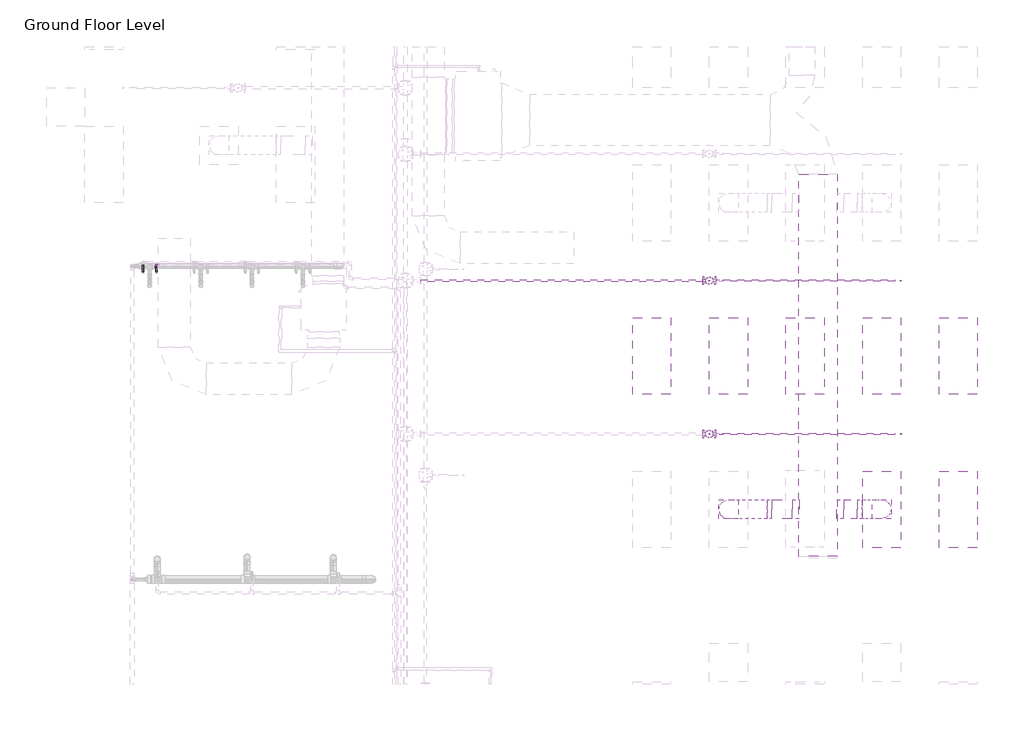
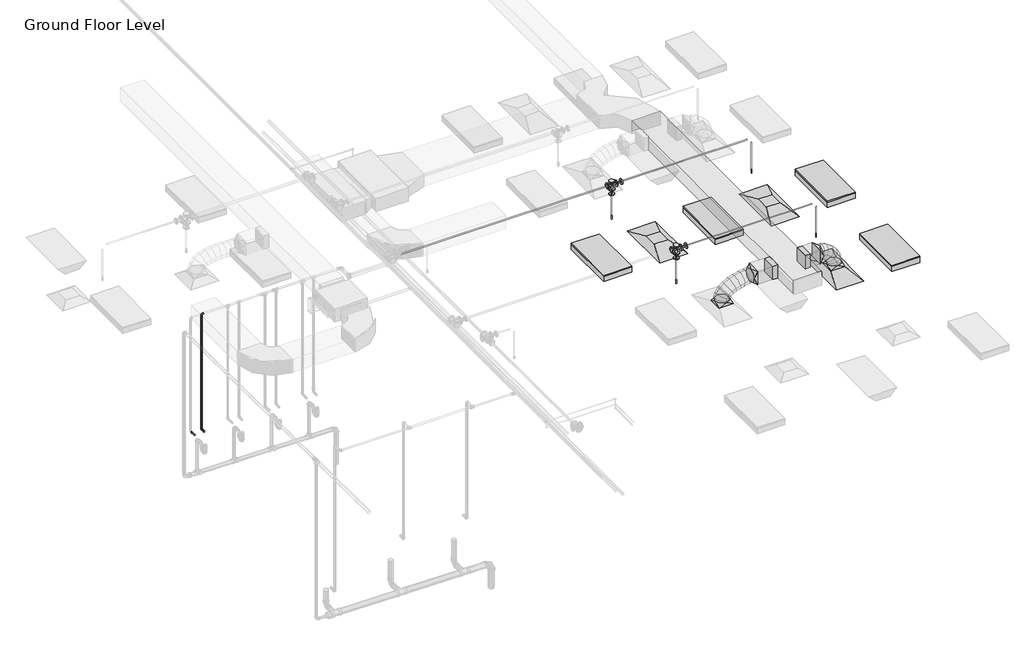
# One storey, part 22 of 66: 10 pipe segments, 8 pipe fittings, 6 duct fittings, 5 duct segments, 4 fire suppression terminals, 4 light fixtures, 3 air terminals.
"""IFC4 building model written with IfcOpenShell, lengths in millimetres."""

from ifc_helpers import new_model, si_unit, point, frame, frame_2d, origin, place, context, project, spatial, polyline, circle_curve, ellipse_curve, trimmed, segment, composite_curve, outline, extrude, transform, mapped, element, save
from ifc_brep_helpers import plane_surface, cylinder_surface, advanced_brep
from components import m_return_diffuser_1200x600_1200_x_600_face_300_x_300_d1983ef6, m_rectangular_takeoff_standard_cb0ccb98, m_rectangular_takeoff_standard_2be5eba1, m_rectangular_to_round_transition_angle_45_degree_641efff0, m_sprinkler_dry_pendent_hosted_15_mm_dry_pendent_9bda8e11, m_troffer_light_parabolic_rectangular1_0600x1200mm_4_lamp_86473d4a, m_reducer_flanged_cs_class_150_standard_ccf252ad, m_tee_round_base_flanged_cs_class_150_standard_7e5987a1, standard_b266ab3f

model = new_model("IFC4")

# Units and contexts
model_context = context("Model", 3, world=origin())
ifc_project = project(units=[si_unit("LENGTHUNIT", "METRE", prefix="MILLI")], contexts=[model_context])

# Site, building, storey
site = spatial("IfcSite", under=ifc_project)
building = spatial("IfcBuilding", under=site)
storey = spatial("IfcBuildingStorey", under=building, Name="Ground Floor Level", Elevation=900.0)

# Air terminals
placement = place(None, origin())
m_return_diffuser_1200x600_1200_x_600_face_300_x_300_shape = m_return_diffuser_1200x600_1200_x_600_face_300_x_300_d1983ef6(model_context)
element("IfcAirTerminal", 1, ObjectType="M_Return Diffuser 1200x600 : 1200 x 600 Face 300 x 300 Connection", at=placement, inside=storey, context=model_context, shape_type="MappedRepresentation", body=[
    mapped(m_return_diffuser_1200x600_1200_x_600_face_300_x_300_shape, transform((10743.0482736, -25264.7846466, 3650.0), x_axis=(0.0, 1.0, 0.0), y_axis=(-1.0, 0.0, 0.0), z_axis=(0.0, 0.0, 1.0))),
])
element("IfcAirTerminal", 2, ObjectType="M_Return Diffuser 1200x600 : 1200 x 600 Face 300 x 300 Connection", at=placement, inside=storey, context=model_context, shape_type="MappedRepresentation", body=[
    mapped(m_return_diffuser_1200x600_1200_x_600_face_300_x_300_shape, transform((13143.0482736, -25264.7846466, 3650.0), x_axis=(0.0, 1.0, 0.0), y_axis=(-1.0, 0.0, 0.0), z_axis=(0.0, 0.0, 1.0))),
])
element("IfcAirTerminal", 3, ObjectType="M_Supply Diffuser 1200x600 : 1200 x 600 Face 300 x 300 Connection", at=placement, inside=storey, context=model_context, shape_type="MappedRepresentation", body=[
    mapped(m_return_diffuser_1200x600_1200_x_600_face_300_x_300_shape, transform((13143.0482736, -27664.7846466, 3650.0), x_axis=(0.0, 1.0, 0.0), y_axis=(-1.0, 0.0, 0.0), z_axis=(0.0, 0.0, 1.0))),
])

# Duct fittings
m_rectangular_takeoff_standard_shape = m_rectangular_takeoff_standard_cb0ccb98(model_context)
element("IfcDuctFitting", 4, ObjectType="M_Rectangular Takeoff : Standard", at=placement, inside=storey, context=model_context, shape_type="MappedRepresentation", body=[
    mapped(m_rectangular_takeoff_standard_shape, transform((12447.7826463, -27664.7846466, 4150.0), x_axis=(1.0, 0.0, 0.0), y_axis=(0.0, -1.0, 0.0), z_axis=(0.0, 0.0, -1.0))),
])
m_rectangular_takeoff_standard_2_shape = m_rectangular_takeoff_standard_2be5eba1(model_context)
element("IfcDuctFitting", 5, ObjectType="M_Rectangular Takeoff : Standard", at=placement, inside=storey, context=model_context, shape_type="MappedRepresentation", body=[
    mapped(m_rectangular_takeoff_standard_2_shape, transform((11847.7826463, -27664.7846466, 4150.0), x_axis=(-1.0, 0.0, 0.0), y_axis=(0.0, 1.0, 0.0), z_axis=(0.0, 0.0, -1.0))),
])
m_rectangular_to_round_transition_angle_45_degree_shape = m_rectangular_to_round_transition_angle_45_degree_641efff0(model_context)
element("IfcDuctFitting", 6, ObjectType="M_Rectangular to Round Transition - Angle : 45 Degree", at=placement, inside=storey, context=model_context, shape_type="MappedRepresentation", body=[
    mapped(m_rectangular_to_round_transition_angle_45_degree_shape, transform((10743.0482736, -27664.7846466, 3751.6), x_axis=(0.0, 0.0, 1.0), y_axis=(-1.0, 0.0, 0.0), z_axis=(0.0, -1.0, 0.0))),
])
element("IfcDuctFitting", 7, ObjectType="M_Rectangular to Round Transition - Angle : 45 Degree", at=placement, inside=storey, context=model_context, shape_type="MappedRepresentation", body=[
    mapped(m_rectangular_to_round_transition_angle_45_degree_shape, transform((11424.4842049, -27664.7846466, 4150.0), x_axis=(-1.0, 0.0, 0.0), y_axis=(0.0, -1.0, 0.0), z_axis=(0.0, 0.0, 1.0))),
])
element("IfcDuctFitting", 8, ObjectType="M_Rectangular to Round Transition - Angle : 45 Degree", at=placement, inside=storey, context=model_context, shape_type="MappedRepresentation", body=[
    mapped(m_rectangular_to_round_transition_angle_45_degree_shape, transform((13143.0482736, -27664.7846466, 3751.6), x_axis=(0.0, 0.0, 1.0), y_axis=(-1.0, 0.0, 0.0), z_axis=(0.0, -1.0, 0.0))),
])
element("IfcDuctFitting", 9, ObjectType="M_Rectangular to Round Transition - Angle : 45 Degree", at=placement, inside=storey, context=model_context, shape_type="MappedRepresentation", body=[
    mapped(m_rectangular_to_round_transition_angle_45_degree_shape, transform((12761.6123697, -27664.7846466, 4150.0), x_axis=(1.0, 0.0, 0.0), y_axis=(0.0, 1.0, 0.0), z_axis=(0.0, 0.0, 1.0))),
])

# Duct segments
element("IfcDuctSegment", 10, ObjectType="Flex - Round", at=placement, inside=storey, context=model_context, shape_type="AdvancedBrep", body=[
    advanced_brep(
    [(10893.0482736, -27664.7846466, 3826.6), (10743.0482736, -27814.7846466, 3826.6), (10593.0482736, -27664.7846466, 3826.6), (10743.0482736, -27514.7846466, 3826.6), (10893.0482736, -27664.7846466, 3832.4838104), (10743.0482736, -27814.7846466, 3857.3049615), (10593.0482736, -27664.7846466, 3882.1261126), (10743.0482736, -27514.7846466, 3857.3049615), (10895.1777586, -27664.7846466, 3838.7421096), (10759.7096782, -27814.7846466, 3906.2708192), (10624.2415979, -27664.7846466, 3973.7995287), (10759.7096782, -27514.7846466, 3906.2708192), (10917.1997864, -27664.7846466, 3871.1472855), (10805.5876959, -27814.7846466, 3973.7798261), (10693.9756053, -27664.7846466, 4076.4123668), (10805.5876959, -27514.7846466, 3973.7798261), (10957.142511, -27664.7846466, 3903.4915826), (10874.5230324, -27814.7846466, 4029.6013814), (10791.9035539, -27664.7846466, 4155.7111802), (10874.5230324, -27514.7846466, 4029.6013814), (11020.0646936, -27664.7846466, 3936.1928758), (10960.3563938, -27814.7846466, 4074.2098454), (10900.6480941, -27664.7846466, 4212.226815), (10960.3563938, -27514.7846466, 4074.2098454), (11098.9170855, -27664.7846466, 3963.8479616), (11056.9284859, -27814.7846466, 4108.0795788), (11014.9398863, -27664.7846466, 4252.311196), (11056.9284859, -27514.7846466, 4108.0795788), (11185.4890682, -27664.7846466, 3984.0509494), (11158.0800145, -27814.7846466, 4131.684942), (11130.6709609, -27664.7846466, 4279.3189347), (11158.0800145, -27514.7846466, 4131.684942), (11271.9732516, -27664.7846466, 3996.0504424), (11257.6516856, -27814.7846466, 4145.5002956), (11243.3301196, -27664.7846466, 4294.9501488), (11257.6516856, -27514.7846466, 4145.5002956), (11346.1345531, -27664.7846466, 4000.0), (11342.1431577, -27814.7846466, 4150.0), (11338.1517622, -27664.7846466, 4300.0), (11342.1431577, -27514.7846466, 4150.0), (11349.4842049, -27664.7846466, 4000.0), (11349.4842049, -27514.7846466, 4150.0), (11349.4842049, -27664.7846466, 4300.0), (11349.4842049, -27814.7846466, 4150.0)],
    [
        (0, 1, circle_curve(frame((10743.0482736, -27664.7846466, 3826.6), z_axis=(0.0, 0.0, -1.0), x_axis=(1.0, 0.0, 0.0)), 150.0)),
        (1, 2, circle_curve(frame((10743.0482736, -27664.7846466, 3826.6), z_axis=(0.0, 0.0, -1.0), x_axis=(1.0, 0.0, 0.0)), 150.0)),
        (2, 3, circle_curve(frame((10743.0482736, -27664.7846466, 3826.6), z_axis=(0.0, 0.0, -1.0), x_axis=(1.0, 0.0, 0.0)), 150.0)),
        (3, 0, circle_curve(frame((10743.0482736, -27664.7846466, 3826.6), z_axis=(0.0, 0.0, -1.0), x_axis=(1.0, 0.0, 0.0)), 150.0)),
        (0, 4),
        (4, 5, ellipse_curve(frame((10743.0482736, -27664.7846466, 3857.3049615), z_axis=(-0.1632543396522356, 0.0, -0.9865840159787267), x_axis=(0.9865840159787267, 0.0, -0.16325433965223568)), 152.039763, 150.0)),
        (5, 1),
        (5, 6, ellipse_curve(frame((10743.0482736, -27664.7846466, 3857.3049615), z_axis=(-0.1632543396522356, 0.0, -0.9865840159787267), x_axis=(0.9865840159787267, 0.0, -0.16325433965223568)), 152.039763, 150.0)),
        (6, 2),
        (6, 7, ellipse_curve(frame((10743.0482736, -27664.7846466, 3857.3049615), z_axis=(-0.1632543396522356, 0.0, -0.9865840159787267), x_axis=(0.9865840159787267, 0.0, -0.16325433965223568)), 152.039763, 150.0)),
        (7, 3),
        (7, 4, ellipse_curve(frame((10743.0482736, -27664.7846466, 3857.3049615), z_axis=(-0.1632543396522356, 0.0, -0.9865840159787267), x_axis=(0.9865840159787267, 0.0, -0.16325433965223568)), 152.039763, 150.0)),
        (4, 8),
        (8, 9, ellipse_curve(frame((10759.7096782, -27664.7846466, 3906.2708192), z_axis=(-0.4461280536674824, 0.0, -0.8949691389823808), x_axis=(0.8949691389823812, 0.0, -0.44612805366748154)), 151.366203, 150.0)),
        (9, 5),
        (9, 10, ellipse_curve(frame((10759.7096782, -27664.7846466, 3906.2708192), z_axis=(-0.4461280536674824, 0.0, -0.8949691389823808), x_axis=(0.8949691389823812, 0.0, -0.44612805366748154)), 151.366203, 150.0)),
        (10, 6),
        (10, 11, ellipse_curve(frame((10759.7096782, -27664.7846466, 3906.2708192), z_axis=(-0.4461280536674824, 0.0, -0.8949691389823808), x_axis=(0.8949691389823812, 0.0, -0.44612805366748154)), 151.366203, 150.0)),
        (11, 7),
        (11, 8, ellipse_curve(frame((10759.7096782, -27664.7846466, 3906.2708192), z_axis=(-0.4461280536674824, 0.0, -0.8949691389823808), x_axis=(0.8949691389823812, 0.0, -0.44612805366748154)), 151.366203, 150.0)),
        (8, 12),
        (12, 13, ellipse_curve(frame((10805.5876959, -27664.7846466, 3973.7798261), z_axis=(-0.6768758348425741, 0.0, -0.7360972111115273), x_axis=(0.7360972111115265, 0.0, -0.6768758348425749)), 151.6268352, 150.0)),
        (13, 9),
        (13, 14, ellipse_curve(frame((10805.5876959, -27664.7846466, 3973.7798261), z_axis=(-0.6768758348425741, 0.0, -0.7360972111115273), x_axis=(0.7360972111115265, 0.0, -0.6768758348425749)), 151.6268352, 150.0)),
        (14, 10),
        (14, 15, ellipse_curve(frame((10805.5876959, -27664.7846466, 3973.7798261), z_axis=(-0.6768758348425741, 0.0, -0.7360972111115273), x_axis=(0.7360972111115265, 0.0, -0.6768758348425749)), 151.6268352, 150.0)),
        (15, 11),
        (15, 12, ellipse_curve(frame((10805.5876959, -27664.7846466, 3973.7798261), z_axis=(-0.6768758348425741, 0.0, -0.7360972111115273), x_axis=(0.7360972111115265, 0.0, -0.6768758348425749)), 151.6268352, 150.0)),
        (12, 16),
        (16, 17, ellipse_curve(frame((10874.5230324, -27664.7846466, 4029.6013814), z_axis=(-0.8364738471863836, 0.0, -0.5480068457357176), x_axis=(0.5480068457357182, 0.0, -0.8364738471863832)), 150.7635884, 150.0)),
        (17, 13),
        (17, 18, ellipse_curve(frame((10874.5230324, -27664.7846466, 4029.6013814), z_axis=(-0.8364738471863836, 0.0, -0.5480068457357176), x_axis=(0.5480068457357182, 0.0, -0.8364738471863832)), 150.7635884, 150.0)),
        (18, 14),
        (18, 19, ellipse_curve(frame((10874.5230324, -27664.7846466, 4029.6013814), z_axis=(-0.8364738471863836, 0.0, -0.5480068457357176), x_axis=(0.5480068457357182, 0.0, -0.8364738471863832)), 150.7635884, 150.0)),
        (19, 15),
        (19, 16, ellipse_curve(frame((10874.5230324, -27664.7846466, 4029.6013814), z_axis=(-0.8364738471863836, 0.0, -0.5480068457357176), x_axis=(0.5480068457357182, 0.0, -0.8364738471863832)), 150.7635884, 150.0)),
        (16, 20),
        (20, 21, ellipse_curve(frame((10960.3563938, -27664.7846466, 4074.2098454), z_axis=(-0.9177957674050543, 0.0, -0.3970528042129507), x_axis=(0.3970528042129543, 0.0, -0.9177957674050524)), 150.3787384, 150.0)),
        (21, 17),
        (21, 22, ellipse_curve(frame((10960.3563938, -27664.7846466, 4074.2098454), z_axis=(-0.9177957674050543, 0.0, -0.3970528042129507), x_axis=(0.3970528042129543, 0.0, -0.9177957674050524)), 150.3787384, 150.0)),
        (22, 18),
        (22, 23, ellipse_curve(frame((10960.3563938, -27664.7846466, 4074.2098454), z_axis=(-0.9177957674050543, 0.0, -0.3970528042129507), x_axis=(0.3970528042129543, 0.0, -0.9177957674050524)), 150.3787384, 150.0)),
        (23, 19),
        (23, 20, ellipse_curve(frame((10960.3563938, -27664.7846466, 4074.2098454), z_axis=(-0.9177957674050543, 0.0, -0.3970528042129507), x_axis=(0.3970528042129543, 0.0, -0.9177957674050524)), 150.3787384, 150.0)),
        (20, 24),
        (24, 25, ellipse_curve(frame((11056.9284859, -27664.7846466, 4108.0795788), z_axis=(-0.9601411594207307, 0.0, -0.27951557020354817), x_axis=(0.2795155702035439, 0.0, -0.9601411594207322)), 150.2191795, 150.0)),
        (25, 21),
        (25, 26, ellipse_curve(frame((11056.9284859, -27664.7846466, 4108.0795788), z_axis=(-0.9601411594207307, 0.0, -0.27951557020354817), x_axis=(0.2795155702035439, 0.0, -0.9601411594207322)), 150.2191795, 150.0)),
        (26, 22),
        (26, 27, ellipse_curve(frame((11056.9284859, -27664.7846466, 4108.0795788), z_axis=(-0.9601411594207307, 0.0, -0.27951557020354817), x_axis=(0.2795155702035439, 0.0, -0.9601411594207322)), 150.2191795, 150.0)),
        (27, 23),
        (27, 24, ellipse_curve(frame((11056.9284859, -27664.7846466, 4108.0795788), z_axis=(-0.9601411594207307, 0.0, -0.27951557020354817), x_axis=(0.2795155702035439, 0.0, -0.9601411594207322)), 150.2191795, 150.0)),
        (24, 28),
        (28, 29, ellipse_curve(frame((11158.0800145, -27664.7846466, 4131.684942), z_axis=(-0.9831991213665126, 0.0, -0.1825362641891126), x_axis=(0.18253626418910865, 0.0, -0.9831991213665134)), 150.1567581, 150.0)),
        (29, 25),
        (29, 30, ellipse_curve(frame((11158.0800145, -27664.7846466, 4131.684942), z_axis=(-0.9831991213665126, 0.0, -0.1825362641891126), x_axis=(0.18253626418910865, 0.0, -0.9831991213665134)), 150.1567581, 150.0)),
        (30, 26),
        (30, 31, ellipse_curve(frame((11158.0800145, -27664.7846466, 4131.684942), z_axis=(-0.9831991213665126, 0.0, -0.1825362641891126), x_axis=(0.18253626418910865, 0.0, -0.9831991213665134)), 150.1567581, 150.0)),
        (31, 27),
        (31, 28, ellipse_curve(frame((11158.0800145, -27664.7846466, 4131.684942), z_axis=(-0.9831991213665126, 0.0, -0.1825362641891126), x_axis=(0.18253626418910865, 0.0, -0.9831991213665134)), 150.1567581, 150.0)),
        (28, 32),
        (32, 33, ellipse_curve(frame((11257.6516856, -27664.7846466, 4145.5002956), z_axis=(-0.9954398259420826, 0.0, -0.09539157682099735), x_axis=(0.09539157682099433, 0.0, -0.9954398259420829)), 150.1344926, 150.0)),
        (33, 29),
        (33, 34, ellipse_curve(frame((11257.6516856, -27664.7846466, 4145.5002956), z_axis=(-0.9954398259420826, 0.0, -0.09539157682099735), x_axis=(0.09539157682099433, 0.0, -0.9954398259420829)), 150.1344926, 150.0)),
        (34, 30),
        (34, 35, ellipse_curve(frame((11257.6516856, -27664.7846466, 4145.5002956), z_axis=(-0.9954398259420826, 0.0, -0.09539157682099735), x_axis=(0.09539157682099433, 0.0, -0.9954398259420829)), 150.1344926, 150.0)),
        (35, 31),
        (35, 32, ellipse_curve(frame((11257.6516856, -27664.7846466, 4145.5002956), z_axis=(-0.9954398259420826, 0.0, -0.09539157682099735), x_axis=(0.09539157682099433, 0.0, -0.9954398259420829)), 150.1344926, 150.0)),
        (32, 36),
        (36, 37, ellipse_curve(frame((11342.1431577, -27664.7846466, 4150.0), z_axis=(-0.9996461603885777, 0.0, -0.02659988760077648), x_axis=(0.026599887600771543, 0.0, -0.9996461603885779)), 150.0530947, 150.0)),
        (37, 33),
        (37, 38, ellipse_curve(frame((11342.1431577, -27664.7846466, 4150.0), z_axis=(-0.9996461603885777, 0.0, -0.02659988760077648), x_axis=(0.026599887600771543, 0.0, -0.9996461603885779)), 150.0530947, 150.0)),
        (38, 34),
        (38, 39, ellipse_curve(frame((11342.1431577, -27664.7846466, 4150.0), z_axis=(-0.9996461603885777, 0.0, -0.02659988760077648), x_axis=(0.026599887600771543, 0.0, -0.9996461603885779)), 150.0530947, 150.0)),
        (39, 35),
        (39, 36, ellipse_curve(frame((11342.1431577, -27664.7846466, 4150.0), z_axis=(-0.9996461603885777, 0.0, -0.02659988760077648), x_axis=(0.026599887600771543, 0.0, -0.9996461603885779)), 150.0530947, 150.0)),
        (40, 41, circle_curve(frame((11349.4842049, -27664.7846466, 4150.0), z_axis=(1.0, 0.0, 0.0), x_axis=(0.0, 0.0, -1.0)), 150.0)),
        (41, 42, circle_curve(frame((11349.4842049, -27664.7846466, 4150.0), z_axis=(1.0, 0.0, 0.0), x_axis=(0.0, 0.0, -1.0)), 150.0)),
        (42, 43, circle_curve(frame((11349.4842049, -27664.7846466, 4150.0), z_axis=(1.0, 0.0, 0.0), x_axis=(0.0, 0.0, -1.0)), 150.0)),
        (43, 40, circle_curve(frame((11349.4842049, -27664.7846466, 4150.0), z_axis=(1.0, 0.0, 0.0), x_axis=(0.0, 0.0, -1.0)), 150.0)),
        (36, 40),
        (43, 37),
        (42, 38),
        (41, 39),
    ],
    [
        plane_surface(frame((10743.0482736, -27814.7846466, 3826.6), z_axis=(0.0, 0.0, -1.0), x_axis=(1.0, 0.0, 0.0))),
        cylinder_surface(frame((10743.0482736, -27664.7846466, 3826.6), z_axis=(0.0, 0.0, -1.0), x_axis=(1.0, 0.0, 0.0)), 150.0),
        cylinder_surface(frame((10743.0482736, -27664.7846466, 3857.3049615), z_axis=(-0.32212824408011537, 0.0, -0.946696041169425), x_axis=(0.946696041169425, 0.0, -0.32212824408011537)), 150.0),
        cylinder_surface(frame((10759.7096782, -27664.7846466, 3906.2708192), z_axis=(-0.5620745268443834, 0.0, -0.827086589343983), x_axis=(0.827086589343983, 0.0, -0.5620745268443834)), 150.0),
        cylinder_surface(frame((10805.5876959, -27664.7846466, 3973.7798261), z_axis=(-0.7771524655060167, 0.0, -0.6293123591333), x_axis=(0.6293123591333, 0.0, -0.7771524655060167)), 150.0),
        cylinder_surface(frame((10874.5230324, -27664.7846466, 4029.6013814), z_axis=(-0.8873220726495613, 0.0, -0.4611502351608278), x_axis=(0.4611502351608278, 0.0, -0.8873220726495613)), 150.0),
        cylinder_surface(frame((10960.3563938, -27664.7846466, 4074.2098454), z_axis=(-0.9436464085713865, 0.0, -0.33095536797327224), x_axis=(0.33095536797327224, 0.0, -0.9436464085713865)), 150.0),
        cylinder_surface(frame((11056.9284859, -27664.7846466, 4108.0795788), z_axis=(-0.9738340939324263, 0.0, -0.22726010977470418), x_axis=(0.22726010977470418, 0.0, -0.9738340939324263)), 150.0),
        cylinder_surface(frame((11158.0800145, -27664.7846466, 4131.684942), z_axis=(-0.9905113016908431, 0.0, -0.13743129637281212), x_axis=(0.13743129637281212, 0.0, -0.9905113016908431)), 150.0),
        cylinder_surface(frame((11257.6516856, -27664.7846466, 4145.5002956), z_axis=(-0.9985848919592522, 0.0, -0.05318095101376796), x_axis=(0.05318095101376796, 0.0, -0.9985848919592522)), 150.0),
        plane_surface(frame((11349.4842049, -27664.7846466, 4000.0), z_axis=(1.0, 0.0, 0.0), x_axis=(0.0, 1.0, 0.0))),
        cylinder_surface(frame((11342.1431577, -27664.7846466, 4150.0), z_axis=(-1.0, 0.0, 0.0), x_axis=(0.0, 0.0, -1.0)), 150.0),
    ],
    [
        (0, [[1, 2, 3, 4]]),
        (1, [[-1, 5, 6, 7]]),
        (1, [[-2, -7, 8, 9]]),
        (1, [[-3, -9, 10, 11]]),
        (1, [[-4, -11, 12, -5]]),
        (2, [[-6, 13, 14, 15]]),
        (2, [[-8, -15, 16, 17]]),
        (2, [[-10, -17, 18, 19]]),
        (2, [[-12, -19, 20, -13]]),
        (3, [[-14, 21, 22, 23]]),
        (3, [[-16, -23, 24, 25]]),
        (3, [[-18, -25, 26, 27]]),
        (3, [[-20, -27, 28, -21]]),
        (4, [[-22, 29, 30, 31]]),
        (4, [[-24, -31, 32, 33]]),
        (4, [[-26, -33, 34, 35]]),
        (4, [[-28, -35, 36, -29]]),
        (5, [[-30, 37, 38, 39]]),
        (5, [[-32, -39, 40, 41]]),
        (5, [[-34, -41, 42, 43]]),
        (5, [[-36, -43, 44, -37]]),
        (6, [[-38, 45, 46, 47]]),
        (6, [[-40, -47, 48, 49]]),
        (6, [[-42, -49, 50, 51]]),
        (6, [[-44, -51, 52, -45]]),
        (7, [[-46, 53, 54, 55]]),
        (7, [[-48, -55, 56, 57]]),
        (7, [[-50, -57, 58, 59]]),
        (7, [[-52, -59, 60, -53]]),
        (8, [[-54, 61, 62, 63]]),
        (8, [[-56, -63, 64, 65]]),
        (8, [[-58, -65, 66, 67]]),
        (8, [[-60, -67, 68, -61]]),
        (9, [[-62, 69, 70, 71]]),
        (9, [[-64, -71, 72, 73]]),
        (9, [[-66, -73, 74, 75]]),
        (9, [[-68, -75, 76, -69]]),
        (10, [[77, 78, 79, 80]]),
        (11, [[-70, 81, -80, 82]]),
        (11, [[-72, -82, -79, 83]]),
        (11, [[-74, -83, -78, 84]]),
        (11, [[-76, -84, -77, -81]]),
    ],
),
])
element("IfcDuctSegment", 11, ObjectType="Flex - Round", at=placement, inside=storey, context=model_context, shape_type="AdvancedBrep", body=[
    advanced_brep(
    [(13293.0482736, -27664.7846466, 3826.6), (13143.0482736, -27814.7846466, 3826.6), (12993.0482736, -27664.7846466, 3826.6), (13143.0482736, -27514.7846466, 3826.6), (13293.0482736, -27664.7846466, 3876.0801767), (13143.0482736, -27814.7846466, 3855.2056793), (12993.0482736, -27664.7846466, 3834.331182), (13143.0482736, -27514.7846466, 3855.2056793), (13265.1827192, -27664.7846466, 3974.2594203), (13125.4356677, -27814.7846466, 3917.2605124), (12985.6886162, -27664.7846466, 3860.2616044), (13125.4356677, -27514.7846466, 3917.2605124), (13200.6413272, -27664.7846466, 4092.9659573), (13077.9530197, -27814.7846466, 4004.5920764), (12955.2647122, -27664.7846466, 3916.2181955), (13077.9530197, -27514.7846466, 4004.5920764), (13104.756489, -27664.7846466, 4195.7964668), (13008.6330843, -27814.7846466, 4078.9333843), (12912.5096796, -27664.7846466, 3962.0703018), (13008.6330843, -27514.7846466, 4078.9333843), (12990.1100986, -27664.7846466, 4267.0876603), (12925.5086161, -27814.7846466, 4130.6231281), (12860.9071335, -27664.7846466, 3994.1585959), (12925.5086161, -27514.7846466, 4130.6231281), (12893.3774283, -27664.7846466, 4300.0), (12868.5580444, -27814.7846466, 4150.0), (12843.7386605, -27664.7846466, 4000.0), (12868.5580444, -27514.7846466, 4150.0), (12836.6123697, -27664.7846466, 4300.0), (12836.6123697, -27814.7846466, 4150.0), (12836.6123697, -27664.7846466, 4000.0), (12836.6123697, -27514.7846466, 4150.0)],
    [
        (0, 1, circle_curve(frame((13143.0482736, -27664.7846466, 3826.6), z_axis=(0.0, 0.0, -1.0), x_axis=(1.0, 0.0, 0.0)), 150.0)),
        (1, 2, circle_curve(frame((13143.0482736, -27664.7846466, 3826.6), z_axis=(0.0, 0.0, -1.0), x_axis=(1.0, 0.0, 0.0)), 150.0)),
        (2, 3, circle_curve(frame((13143.0482736, -27664.7846466, 3826.6), z_axis=(0.0, 0.0, -1.0), x_axis=(1.0, 0.0, 0.0)), 150.0)),
        (3, 0, circle_curve(frame((13143.0482736, -27664.7846466, 3826.6), z_axis=(0.0, 0.0, -1.0), x_axis=(1.0, 0.0, 0.0)), 150.0)),
        (0, 4),
        (4, 5, ellipse_curve(frame((13143.0482736, -27664.7846466, 3855.2056793), z_axis=(0.13783502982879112, 0.0, -0.990455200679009), x_axis=(-0.990455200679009, 0.0, -0.1378350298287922)), 151.4455171, 150.0)),
        (5, 1),
        (5, 6, ellipse_curve(frame((13143.0482736, -27664.7846466, 3855.2056793), z_axis=(0.13783502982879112, 0.0, -0.990455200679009), x_axis=(-0.990455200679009, 0.0, -0.1378350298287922)), 151.4455171, 150.0)),
        (6, 2),
        (6, 7, ellipse_curve(frame((13143.0482736, -27664.7846466, 3855.2056793), z_axis=(0.13783502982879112, 0.0, -0.990455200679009), x_axis=(-0.990455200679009, 0.0, -0.1378350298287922)), 151.4455171, 150.0)),
        (7, 3),
        (7, 4, ellipse_curve(frame((13143.0482736, -27664.7846466, 3855.2056793), z_axis=(0.13783502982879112, 0.0, -0.990455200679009), x_axis=(-0.990455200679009, 0.0, -0.1378350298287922)), 151.4455171, 150.0)),
        (4, 8),
        (8, 9, ellipse_curve(frame((13125.4356677, -27664.7846466, 3917.2605124), z_axis=(0.37766579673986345, 0.0, -0.9259419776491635), x_axis=(-0.9259419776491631, 0.0, -0.3776657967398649)), 150.9241992, 150.0)),
        (9, 5),
        (9, 10, ellipse_curve(frame((13125.4356677, -27664.7846466, 3917.2605124), z_axis=(0.37766579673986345, 0.0, -0.9259419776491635), x_axis=(-0.9259419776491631, 0.0, -0.3776657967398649)), 150.9241992, 150.0)),
        (10, 6),
        (10, 11, ellipse_curve(frame((13125.4356677, -27664.7846466, 3917.2605124), z_axis=(0.37766579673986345, 0.0, -0.9259419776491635), x_axis=(-0.9259419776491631, 0.0, -0.3776657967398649)), 150.9241992, 150.0)),
        (11, 7),
        (11, 8, ellipse_curve(frame((13125.4356677, -27664.7846466, 3917.2605124), z_axis=(0.37766579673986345, 0.0, -0.9259419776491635), x_axis=(-0.9259419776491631, 0.0, -0.3776657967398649)), 150.9241992, 150.0)),
        (8, 12),
        (12, 13, ellipse_curve(frame((13077.9530197, -27664.7846466, 4004.5920764), z_axis=(0.584471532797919, 0.0, -0.8114142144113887), x_axis=(-0.8114142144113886, 0.0, -0.5844715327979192)), 151.2030542, 150.0)),
        (13, 9),
        (13, 14, ellipse_curve(frame((13077.9530197, -27664.7846466, 4004.5920764), z_axis=(0.584471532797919, 0.0, -0.8114142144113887), x_axis=(-0.8114142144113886, 0.0, -0.5844715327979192)), 151.2030542, 150.0)),
        (14, 10),
        (14, 15, ellipse_curve(frame((13077.9530197, -27664.7846466, 4004.5920764), z_axis=(0.584471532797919, 0.0, -0.8114142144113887), x_axis=(-0.8114142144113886, 0.0, -0.5844715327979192)), 151.2030542, 150.0)),
        (15, 11),
        (15, 12, ellipse_curve(frame((13077.9530197, -27664.7846466, 4004.5920764), z_axis=(0.584471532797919, 0.0, -0.8114142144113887), x_axis=(-0.8114142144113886, 0.0, -0.5844715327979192)), 151.2030542, 150.0)),
        (12, 16),
        (16, 17, ellipse_curve(frame((13008.6330843, -27664.7846466, 4078.9333843), z_axis=(0.7723088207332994, 0.0, -0.6352472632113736), x_axis=(-0.6352472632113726, 0.0, -0.7723088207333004)), 151.3165192, 150.0)),
        (17, 13),
        (17, 18, ellipse_curve(frame((13008.6330843, -27664.7846466, 4078.9333843), z_axis=(0.7723088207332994, 0.0, -0.6352472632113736), x_axis=(-0.6352472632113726, 0.0, -0.7723088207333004)), 151.3165192, 150.0)),
        (18, 14),
        (18, 19, ellipse_curve(frame((13008.6330843, -27664.7846466, 4078.9333843), z_axis=(0.7723088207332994, 0.0, -0.6352472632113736), x_axis=(-0.6352472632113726, 0.0, -0.7723088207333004)), 151.3165192, 150.0)),
        (19, 15),
        (19, 16, ellipse_curve(frame((13008.6330843, -27664.7846466, 4078.9333843), z_axis=(0.7723088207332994, 0.0, -0.6352472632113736), x_axis=(-0.6352472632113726, 0.0, -0.7723088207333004)), 151.3165192, 150.0)),
        (16, 20),
        (20, 21, ellipse_curve(frame((12925.5086161, -27664.7846466, 4130.6231281), z_axis=(0.9038393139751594, 0.0, -0.4278720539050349), x_axis=(-0.42787205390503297, 0.0, -0.9038393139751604)), 150.9831782, 150.0)),
        (21, 17),
        (21, 22, ellipse_curve(frame((12925.5086161, -27664.7846466, 4130.6231281), z_axis=(0.9038393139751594, 0.0, -0.4278720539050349), x_axis=(-0.42787205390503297, 0.0, -0.9038393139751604)), 150.9831782, 150.0)),
        (22, 18),
        (22, 23, ellipse_curve(frame((12925.5086161, -27664.7846466, 4130.6231281), z_axis=(0.9038393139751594, 0.0, -0.4278720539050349), x_axis=(-0.42787205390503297, 0.0, -0.9038393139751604)), 150.9831782, 150.0)),
        (23, 19),
        (23, 20, ellipse_curve(frame((12925.5086161, -27664.7846466, 4130.6231281), z_axis=(0.9038393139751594, 0.0, -0.4278720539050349), x_axis=(-0.42787205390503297, 0.0, -0.9038393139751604)), 150.9831782, 150.0)),
        (20, 24),
        (24, 25, ellipse_curve(frame((12868.5580444, -27664.7846466, 4150.0), z_axis=(0.9865858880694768, 0.0, -0.1632430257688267), x_axis=(-0.16324302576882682, 0.0, -0.9865858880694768)), 152.0394745, 150.0)),
        (25, 21),
        (25, 26, ellipse_curve(frame((12868.5580444, -27664.7846466, 4150.0), z_axis=(0.9865858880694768, 0.0, -0.1632430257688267), x_axis=(-0.16324302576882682, 0.0, -0.9865858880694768)), 152.0394745, 150.0)),
        (26, 22),
        (26, 27, ellipse_curve(frame((12868.5580444, -27664.7846466, 4150.0), z_axis=(0.9865858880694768, 0.0, -0.1632430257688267), x_axis=(-0.16324302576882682, 0.0, -0.9865858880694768)), 152.0394745, 150.0)),
        (27, 23),
        (27, 24, ellipse_curve(frame((12868.5580444, -27664.7846466, 4150.0), z_axis=(0.9865858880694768, 0.0, -0.1632430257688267), x_axis=(-0.16324302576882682, 0.0, -0.9865858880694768)), 152.0394745, 150.0)),
        (24, 28),
        (28, 29, circle_curve(frame((12836.6123697, -27664.7846466, 4150.0), z_axis=(1.0, 0.0, 0.0), x_axis=(0.0, 0.0, 1.0)), 150.0)),
        (29, 25),
        (29, 30, circle_curve(frame((12836.6123697, -27664.7846466, 4150.0), z_axis=(1.0, 0.0, 0.0), x_axis=(0.0, 0.0, 1.0)), 150.0)),
        (30, 26),
        (30, 31, circle_curve(frame((12836.6123697, -27664.7846466, 4150.0), z_axis=(1.0, 0.0, 0.0), x_axis=(0.0, 0.0, 1.0)), 150.0)),
        (31, 27),
        (31, 28, circle_curve(frame((12836.6123697, -27664.7846466, 4150.0), z_axis=(1.0, 0.0, 0.0), x_axis=(0.0, 0.0, 1.0)), 150.0)),
    ],
    [
        plane_surface(frame((13143.0482736, -27814.7846466, 3826.6), z_axis=(0.0, 0.0, -1.0), x_axis=(1.0, 0.0, 0.0))),
        cylinder_surface(frame((13143.0482736, -27664.7846466, 3826.6), z_axis=(0.0, 0.0, -1.0), x_axis=(1.0, 0.0, 0.0)), 150.0),
        cylinder_surface(frame((13143.0482736, -27664.7846466, 3855.2056793), z_axis=(0.27303884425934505, 0.0, -0.9620030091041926), x_axis=(0.9620030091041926, 0.0, 0.27303884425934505)), 150.0),
        cylinder_surface(frame((13125.4356677, -27664.7846466, 3917.2605124), z_axis=(0.4776674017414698, 0.0, -0.8785407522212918), x_axis=(0.8785407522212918, 0.0, 0.4776674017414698)), 150.0),
        cylinder_surface(frame((13077.9530197, -27664.7846466, 4004.5920764), z_axis=(0.6819749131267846, 0.0, -0.7313755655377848), x_axis=(0.7313755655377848, 0.0, 0.6819749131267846)), 150.0),
        cylinder_surface(frame((13008.6330843, -27664.7846466, 4078.9333843), z_axis=(0.8492038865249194, 0.0, -0.5280651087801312), x_axis=(0.5280651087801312, 0.0, 0.8492038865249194)), 150.0),
        cylinder_surface(frame((12925.5086161, -27664.7846466, 4130.6231281), z_axis=(0.9467034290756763, 0.0, -0.32210653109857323), x_axis=(0.32210653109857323, 0.0, 0.9467034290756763)), 150.0),
        cylinder_surface(frame((12868.5580444, -27664.7846466, 4150.0), z_axis=(1.0, 0.0, 0.0), x_axis=(0.0, 0.0, 1.0)), 150.0),
        plane_surface(frame((12836.6123697, -27664.7846466, 4000.0), z_axis=(-1.0, 0.0, 0.0), x_axis=(0.0, -1.0, 0.0))),
    ],
    [
        (0, [[1, 2, 3, 4]]),
        (1, [[-1, 5, 6, 7]]),
        (1, [[-2, -7, 8, 9]]),
        (1, [[-3, -9, 10, 11]]),
        (1, [[-4, -11, 12, -5]]),
        (2, [[-6, 13, 14, 15]]),
        (2, [[-8, -15, 16, 17]]),
        (2, [[-10, -17, 18, 19]]),
        (2, [[-12, -19, 20, -13]]),
        (3, [[-14, 21, 22, 23]]),
        (3, [[-16, -23, 24, 25]]),
        (3, [[-18, -25, 26, 27]]),
        (3, [[-20, -27, 28, -21]]),
        (4, [[-22, 29, 30, 31]]),
        (4, [[-24, -31, 32, 33]]),
        (4, [[-26, -33, 34, 35]]),
        (4, [[-28, -35, 36, -29]]),
        (5, [[-30, 37, 38, 39]]),
        (5, [[-32, -39, 40, 41]]),
        (5, [[-34, -41, 42, 43]]),
        (5, [[-36, -43, 44, -37]]),
        (6, [[-38, 45, 46, 47]]),
        (6, [[-40, -47, 48, 49]]),
        (6, [[-42, -49, 50, 51]]),
        (6, [[-44, -51, 52, -45]]),
        (7, [[-46, 53, 54, 55]]),
        (7, [[-48, -55, 56, 57]]),
        (7, [[-50, -57, 58, 59]]),
        (7, [[-52, -59, 60, -53]]),
        (8, [[-60, -58, -56, -54]]),
    ],
),
])
element("IfcDuctSegment", 12, ObjectType="Radius Elbows / Taps", at=placement, inside=storey, context=model_context, shape_type="SweptSolid", body=[
    extrude(outline(polyline([(12447.7826463, -28403.2846466), (11847.7826463, -28403.2846466), (11847.7826463, -22416.5689179), (12447.7826463, -22416.5689179), (12447.7826463, -28403.2846466)])), frame((0.0, 0.0, 4000.0002153), z_axis=(0.0, 0.0, 1.0), x_axis=(1.0, 0.0, 0.0)), (0.0, 0.0, 1.0), 300.0),
])
element("IfcDuctSegment", 13, ObjectType="Radius Elbows / Taps", at=placement, inside=storey, context=model_context, shape_type="SweptSolid", body=[
    extrude(outline(polyline([(11746.1826463, -27514.7846466), (11746.1826463, -27814.7846466), (11424.4842049, -27814.7846466), (11424.4842049, -27514.7846466), (11746.1826463, -27514.7846466)])), frame((0.0, 0.0, 4000.0), z_axis=(0.0, 0.0, 1.0), x_axis=(1.0, 0.0, 0.0)), (0.0, 0.0, 1.0), 300.0),
])
element("IfcDuctSegment", 14, ObjectType="Radius Elbows / Taps", at=placement, inside=storey, context=model_context, shape_type="SweptSolid", body=[
    extrude(outline(polyline([(12549.3826463, -27814.7846466), (12549.3826463, -27514.7846466), (12761.6123697, -27514.7846466), (12761.6123697, -27814.7846466), (12549.3826463, -27814.7846466)])), frame((0.0, 0.0, 4000.0), z_axis=(0.0, 0.0, 1.0), x_axis=(1.0, 0.0, 0.0)), (0.0, 0.0, 1.0), 300.0),
])

# Fire suppression terminals
m_sprinkler_dry_pendent_hosted_15_mm_dry_pendent_shape = m_sprinkler_dry_pendent_hosted_15_mm_dry_pendent_9bda8e11(model_context)
element("IfcFireSuppressionTerminal", 15, ObjectType="M_Sprinkler - Dry - Pendent - Hosted : 15 mm Dry Pendent", at=placement, inside=storey, context=model_context, shape_type="MappedRepresentation", body=[
    mapped(m_sprinkler_dry_pendent_hosted_15_mm_dry_pendent_shape, transform((13443.0482736, -24083.6779349, 3650.0), x_axis=(1.0, 0.0, 0.0), y_axis=(0.0, -1.0, 0.0), z_axis=(0.0, 0.0, -1.0))),
])
element("IfcFireSuppressionTerminal", 16, ObjectType="M_Sprinkler - Dry - Pendent - Hosted : 15 mm Dry Pendent", at=placement, inside=storey, context=model_context, shape_type="MappedRepresentation", body=[
    mapped(m_sprinkler_dry_pendent_hosted_15_mm_dry_pendent_shape, transform((10443.0482736, -24083.6779349, 3650.0), x_axis=(1.0, 0.0, 0.0), y_axis=(0.0, -1.0, 0.0), z_axis=(0.0, 0.0, -1.0))),
])
element("IfcFireSuppressionTerminal", 17, ObjectType="M_Sprinkler - Dry - Pendent - Hosted : 15 mm Dry Pendent", at=placement, inside=storey, context=model_context, shape_type="MappedRepresentation", body=[
    mapped(m_sprinkler_dry_pendent_hosted_15_mm_dry_pendent_shape, transform((10443.0482736, -26484.6295433, 3650.0), x_axis=(1.0, 0.0, 0.0), y_axis=(0.0, -1.0, 0.0), z_axis=(0.0, 0.0, -1.0))),
])
element("IfcFireSuppressionTerminal", 18, ObjectType="M_Sprinkler - Dry - Pendent - Hosted : 15 mm Dry Pendent", at=placement, inside=storey, context=model_context, shape_type="MappedRepresentation", body=[
    mapped(m_sprinkler_dry_pendent_hosted_15_mm_dry_pendent_shape, transform((13443.0482736, -26484.6295433, 3650.0), x_axis=(1.0, 0.0, 0.0), y_axis=(0.0, -1.0, 0.0), z_axis=(0.0, 0.0, -1.0))),
])

# Light fixtures
m_troffer_light_parabolic_rectangular1_0600x1200mm_4_lamp_shape = m_troffer_light_parabolic_rectangular1_0600x1200mm_4_lamp_86473d4a(model_context)
element("IfcLightFixture", 19, ObjectType="M_Troffer Light - Parabolic Rectangular1 : 0600x1200mm(4 Lamp) - 277V 2", at=placement, inside=storey, context=model_context, shape_type="MappedRepresentation", body=[
    mapped(m_troffer_light_parabolic_rectangular1_0600x1200mm_4_lamp_shape, transform((9483.5823415, -25246.081145, 3650.0), x_axis=(0.0, 1.0, 0.0), y_axis=(-1.0, 0.0, 0.0), z_axis=(0.0, 0.0, 1.0))),
])
element("IfcLightFixture", 20, ObjectType="M_Troffer Light - Parabolic Rectangular1 : 0600x1200mm(4 Lamp) - 277V 2", at=placement, inside=storey, context=model_context, shape_type="MappedRepresentation", body=[
    mapped(m_troffer_light_parabolic_rectangular1_0600x1200mm_4_lamp_shape, transform((11883.5823415, -25246.081145, 3650.0), x_axis=(0.0, 1.0, 0.0), y_axis=(-1.0, 0.0, 0.0), z_axis=(0.0, 0.0, 1.0))),
])
element("IfcLightFixture", 21, ObjectType="M_Troffer Light - Parabolic Rectangular1 : 0600x1200mm(4 Lamp) - 277V 2", at=placement, inside=storey, context=model_context, shape_type="MappedRepresentation", body=[
    mapped(m_troffer_light_parabolic_rectangular1_0600x1200mm_4_lamp_shape, transform((14283.5823415, -25246.081145, 3650.0), x_axis=(0.0, 1.0, 0.0), y_axis=(-1.0, 0.0, 0.0), z_axis=(0.0, 0.0, 1.0))),
])
element("IfcLightFixture", 22, ObjectType="M_Troffer Light - Parabolic Rectangular1 : 0600x1200mm(4 Lamp) - 277V 2", at=placement, inside=storey, context=model_context, shape_type="MappedRepresentation", body=[
    mapped(m_troffer_light_parabolic_rectangular1_0600x1200mm_4_lamp_shape, transform((14283.5823415, -27646.081145, 3650.0), x_axis=(0.0, 1.0, 0.0), y_axis=(-1.0, 0.0, 0.0), z_axis=(0.0, 0.0, 1.0))),
])

# Pipe fittings
m_reducer_flanged_cs_class_150_standard_shape = m_reducer_flanged_cs_class_150_standard_ccf252ad(model_context)
element("IfcPipeFitting", 23, ObjectType="M_Reducer - Flanged - CS - Class 150 : Standard", at=placement, inside=storey, context=model_context, shape_type="MappedRepresentation", body=[
    mapped(m_reducer_flanged_cs_class_150_standard_shape, transform((10543.7568674, -26484.6295433, 4347.5), x_axis=(1.0, 0.0, 0.0), y_axis=(0.0, 0.0, 1.0), z_axis=(0.0, -1.0, 0.0))),
])
element("IfcPipeFitting", 24, ObjectType="M_Reducer - Flanged - CS - Class 150 : Standard", at=placement, inside=storey, context=model_context, shape_type="MappedRepresentation", body=[
    mapped(m_reducer_flanged_cs_class_150_standard_shape, transform((10443.0482736, -26484.6295433, 4246.7914063), x_axis=(0.0, 0.0, -1.0), y_axis=(-1.0, 0.0, 0.0), z_axis=(0.0, 1.0, 0.0))),
])
element("IfcPipeFitting", 25, ObjectType="M_Reducer - Flanged - CS - Class 150 : Standard", at=placement, inside=storey, context=model_context, shape_type="MappedRepresentation", body=[
    mapped(m_reducer_flanged_cs_class_150_standard_shape, transform((10543.7568674, -24083.6779349, 4347.5), x_axis=(1.0, 0.0, 0.0), y_axis=(0.0, 0.0, 1.0), z_axis=(0.0, -1.0, 0.0))),
])
element("IfcPipeFitting", 26, ObjectType="M_Reducer - Flanged - CS - Class 150 : Standard", at=placement, inside=storey, context=model_context, shape_type="MappedRepresentation", body=[
    mapped(m_reducer_flanged_cs_class_150_standard_shape, transform((10443.0482736, -24083.6779349, 4246.7914063), x_axis=(0.0, 0.0, -1.0), y_axis=(-1.0, 0.0, 0.0), z_axis=(0.0, 1.0, 0.0))),
])
m_tee_round_base_flanged_cs_class_150_standard_shape = m_tee_round_base_flanged_cs_class_150_standard_7e5987a1(model_context)
element("IfcPipeFitting", 27, ObjectType="M_Tee Round Base - Flanged - CS - Class 150 : Standard", at=placement, inside=storey, context=model_context, shape_type="MappedRepresentation", body=[
    mapped(m_tee_round_base_flanged_cs_class_150_standard_shape, transform((10443.0482736, -26484.6295433, 4347.5), x_axis=(1.0, 0.0, 0.0), y_axis=(0.0, 0.0, 1.0), z_axis=(0.0, -1.0, 0.0))),
])
element("IfcPipeFitting", 28, ObjectType="M_Tee Round Base - Flanged - CS - Class 150 : Standard", at=placement, inside=storey, context=model_context, shape_type="MappedRepresentation", body=[
    mapped(m_tee_round_base_flanged_cs_class_150_standard_shape, transform((10443.0482736, -24083.6779349, 4347.5), x_axis=(1.0, 0.0, 0.0), y_axis=(0.0, 0.0, 1.0), z_axis=(0.0, -1.0, 0.0))),
])
standard_shape = standard_b266ab3f(model_context)
element("IfcPipeFitting", 29, ObjectType="M_Elbow - CPVC - Sch 40 : Standard", at=placement, inside=storey, context=model_context, shape_type="MappedRepresentation", body=[
    mapped(standard_shape, transform((1783.0647206, -23844.7846466, 1690.0), x_axis=(0.0, 0.0, -1.0), y_axis=(0.0, -1.0, 0.0), z_axis=(-1.0, 0.0, 0.0))),
])
element("IfcPipeFitting", 30, ObjectType="M_Elbow - CPVC - Sch 40 : Standard", at=placement, inside=storey, context=model_context, shape_type="MappedRepresentation", body=[
    mapped(standard_shape, transform((1783.0647206, -23844.7846466, 4300.0), x_axis=(-1.0, 0.0, 0.0), y_axis=(0.0, 0.0, -1.0), z_axis=(0.0, -1.0, 0.0))),
])

# Pipe segments
element("IfcPipeSegment", 31, ObjectType="CPVC", at=placement, inside=storey, context=model_context, shape_type="SweptSolid", body=[
    extrude(outline(composite_curve([segment(trimmed(circle_curve(frame_2d((1690.0, 1783.0647206)), 13.335), [point((1690.0, 1796.3997206))], [point((1703.335, 1783.0647206))], False, "CARTESIAN"), True, "CONTINUOUS"), segment(trimmed(circle_curve(frame_2d((1690.0, 1783.0647206)), 13.335), [point((1703.335, 1783.0647206))], [point((1690.0, 1769.7297206))], False, "CARTESIAN"), True, "CONTINUOUS"), segment(trimmed(circle_curve(frame_2d((1690.0, 1783.0647206)), 13.335), [point((1690.0, 1769.7297206))], [point((1676.665, 1783.0647206))], False, "CARTESIAN"), True, "CONTINUOUS"), segment(trimmed(circle_curve(frame_2d((1690.0, 1783.0647206)), 13.335), [point((1676.665, 1783.0647206))], [point((1690.0, 1796.3997206))], False, "CARTESIAN"), True, "CONTINUOUS")], self_intersect=False)), frame((0.0, -23944.7846466, 0.0), z_axis=(0.0, 1.0, 0.0), x_axis=(0.0, 0.0, 1.0)), (0.0, 0.0, 1.0), 64.67495),
])
element("IfcPipeSegment", 32, ObjectType="CPVC", at=placement, inside=storey, context=model_context, shape_type="SweptSolid", body=[
    extrude(outline(composite_curve([segment(trimmed(circle_curve(frame_2d((1783.0647206, -23844.7846466)), 13.335), [point((1796.3997206, -23844.7846466))], [point((1783.0647206, -23858.1196466))], False, "CARTESIAN"), True, "CONTINUOUS"), segment(trimmed(circle_curve(frame_2d((1783.0647206, -23844.7846466)), 13.335), [point((1783.0647206, -23858.1196466))], [point((1769.7297206, -23844.7846466))], False, "CARTESIAN"), True, "CONTINUOUS"), segment(trimmed(circle_curve(frame_2d((1783.0647206, -23844.7846466)), 13.335), [point((1769.7297206, -23844.7846466))], [point((1783.0647206, -23831.4496466))], False, "CARTESIAN"), True, "CONTINUOUS"), segment(trimmed(circle_curve(frame_2d((1783.0647206, -23844.7846466)), 13.335), [point((1783.0647206, -23831.4496466))], [point((1796.3997206, -23844.7846466))], False, "CARTESIAN"), True, "CONTINUOUS")], self_intersect=False)), frame((0.0, 0.0, 1725.32505), z_axis=(0.0, 0.0, 1.0), x_axis=(1.0, 0.0, 0.0)), (0.0, 0.0, 1.0), 2539.3499),
])
element("IfcPipeSegment", 33, ObjectType="CPVC", at=placement, inside=storey, context=model_context, shape_type="SweptSolid", body=[
    extrude(outline(composite_curve([segment(trimmed(circle_curve(frame_2d((1690.0, 1574.4348794)), 13.335), [point((1690.0, 1587.7698794))], [point((1703.335, 1574.4348794))], False, "CARTESIAN"), True, "CONTINUOUS"), segment(trimmed(circle_curve(frame_2d((1690.0, 1574.4348794)), 13.335), [point((1703.335, 1574.4348794))], [point((1690.0, 1561.0998794))], False, "CARTESIAN"), True, "CONTINUOUS"), segment(trimmed(circle_curve(frame_2d((1690.0, 1574.4348794)), 13.335), [point((1690.0, 1561.0998794))], [point((1676.665, 1574.4348794))], False, "CARTESIAN"), True, "CONTINUOUS"), segment(trimmed(circle_curve(frame_2d((1690.0, 1574.4348794)), 13.335), [point((1676.665, 1574.4348794))], [point((1690.0, 1587.7698794))], False, "CARTESIAN"), True, "CONTINUOUS")], self_intersect=False)), frame((0.0, -23944.7846466, 0.0), z_axis=(0.0, 1.0, 0.0), x_axis=(0.0, 0.0, 1.0)), (0.0, 0.0, 1.0), 114.5379636),
])
element("IfcPipeSegment", 34, ObjectType="Steel flanged", at=placement, inside=storey, context=model_context, shape_type="SweptSolid", body=[
    extrude(outline(composite_curve([segment(trimmed(circle_curve(frame_2d((13443.0482736, -26484.6295433)), 10.668), [point((13432.3802736, -26484.6295433))], [point((13443.0482736, -26473.9615433))], False, "CARTESIAN"), True, "CONTINUOUS"), segment(trimmed(circle_curve(frame_2d((13443.0482736, -26484.6295433)), 10.668), [point((13443.0482736, -26473.9615433))], [point((13453.7162736, -26484.6295433))], False, "CARTESIAN"), True, "CONTINUOUS"), segment(trimmed(circle_curve(frame_2d((13443.0482736, -26484.6295433)), 10.668), [point((13453.7162736, -26484.6295433))], [point((13443.0482736, -26495.2975433))], False, "CARTESIAN"), True, "CONTINUOUS"), segment(trimmed(circle_curve(frame_2d((13443.0482736, -26484.6295433)), 10.668), [point((13443.0482736, -26495.2975433))], [point((13432.3802736, -26484.6295433))], False, "CARTESIAN"), True, "CONTINUOUS")], self_intersect=False)), frame((0.0, 0.0, 3650.0), z_axis=(0.0, 0.0, 1.0), x_axis=(1.0, 0.0, 0.0)), (0.0, 0.0, 1.0), 604.4914062),
])
element("IfcPipeSegment", 35, ObjectType="Steel flanged", at=placement, inside=storey, context=model_context, shape_type="SweptSolid", body=[
    extrude(outline(composite_curve([segment(trimmed(circle_curve(frame_2d((13443.0482736, -24083.6779349)), 10.668), [point((13432.3802736, -24083.6779349))], [point((13443.0482736, -24073.0099349))], False, "CARTESIAN"), True, "CONTINUOUS"), segment(trimmed(circle_curve(frame_2d((13443.0482736, -24083.6779349)), 10.668), [point((13443.0482736, -24073.0099349))], [point((13453.7162736, -24083.6779349))], False, "CARTESIAN"), True, "CONTINUOUS"), segment(trimmed(circle_curve(frame_2d((13443.0482736, -24083.6779349)), 10.668), [point((13453.7162736, -24083.6779349))], [point((13443.0482736, -24094.3459349))], False, "CARTESIAN"), True, "CONTINUOUS"), segment(trimmed(circle_curve(frame_2d((13443.0482736, -24083.6779349)), 10.668), [point((13443.0482736, -24094.3459349))], [point((13432.3802736, -24083.6779349))], False, "CARTESIAN"), True, "CONTINUOUS")], self_intersect=False)), frame((0.0, 0.0, 3650.0), z_axis=(0.0, 0.0, 1.0), x_axis=(1.0, 0.0, 0.0)), (0.0, 0.0, 1.0), 604.4914062),
])
element("IfcPipeSegment", 36, ObjectType="Steel flanged", at=placement, inside=storey, context=model_context, shape_type="SweptSolid", body=[
    extrude(outline(composite_curve([segment(trimmed(circle_curve(frame_2d((10443.0482736, -26484.6295433)), 10.668), [point((10432.3802736, -26484.6295433))], [point((10443.0482736, -26473.9615433))], False, "CARTESIAN"), True, "CONTINUOUS"), segment(trimmed(circle_curve(frame_2d((10443.0482736, -26484.6295433)), 10.668), [point((10443.0482736, -26473.9615433))], [point((10453.7162736, -26484.6295433))], False, "CARTESIAN"), True, "CONTINUOUS"), segment(trimmed(circle_curve(frame_2d((10443.0482736, -26484.6295433)), 10.668), [point((10453.7162736, -26484.6295433))], [point((10443.0482736, -26495.2975433))], False, "CARTESIAN"), True, "CONTINUOUS"), segment(trimmed(circle_curve(frame_2d((10443.0482736, -26484.6295433)), 10.668), [point((10443.0482736, -26495.2975433))], [point((10432.3802736, -26484.6295433))], False, "CARTESIAN"), True, "CONTINUOUS")], self_intersect=False)), frame((0.0, 0.0, 3650.0), z_axis=(0.0, 0.0, 1.0), x_axis=(1.0, 0.0, 0.0)), (0.0, 0.0, 1.0), 482.7914062),
])
element("IfcPipeSegment", 37, ObjectType="Steel flanged", at=placement, inside=storey, context=model_context, shape_type="SweptSolid", body=[
    extrude(outline(composite_curve([segment(trimmed(circle_curve(frame_2d((-26484.6295433, 4347.5)), 10.668), [point((-26473.9615433, 4347.5))], [point((-26484.6295433, 4336.832))], False, "CARTESIAN"), True, "CONTINUOUS"), segment(trimmed(circle_curve(frame_2d((-26484.6295433, 4347.5)), 10.668), [point((-26484.6295433, 4336.832))], [point((-26495.2975433, 4347.5))], False, "CARTESIAN"), True, "CONTINUOUS"), segment(trimmed(circle_curve(frame_2d((-26484.6295433, 4347.5)), 10.668), [point((-26495.2975433, 4347.5))], [point((-26484.6295433, 4358.168))], False, "CARTESIAN"), True, "CONTINUOUS"), segment(trimmed(circle_curve(frame_2d((-26484.6295433, 4347.5)), 10.668), [point((-26484.6295433, 4358.168))], [point((-26473.9615433, 4347.5))], False, "CARTESIAN"), True, "CONTINUOUS")], self_intersect=False)), frame((10657.7568674, 0.0, 0.0), z_axis=(1.0, 0.0, 0.0), x_axis=(0.0, 1.0, 0.0)), (0.0, 0.0, 1.0), 2692.2828125),
])
element("IfcPipeSegment", 38, ObjectType="Steel flanged", at=placement, inside=storey, context=model_context, shape_type="SweptSolid", body=[
    extrude(outline(composite_curve([segment(trimmed(circle_curve(frame_2d((10443.0482736, -24083.6779349)), 10.668), [point((10432.3802736, -24083.6779349))], [point((10443.0482736, -24073.0099349))], False, "CARTESIAN"), True, "CONTINUOUS"), segment(trimmed(circle_curve(frame_2d((10443.0482736, -24083.6779349)), 10.668), [point((10443.0482736, -24073.0099349))], [point((10453.7162736, -24083.6779349))], False, "CARTESIAN"), True, "CONTINUOUS"), segment(trimmed(circle_curve(frame_2d((10443.0482736, -24083.6779349)), 10.668), [point((10453.7162736, -24083.6779349))], [point((10443.0482736, -24094.3459349))], False, "CARTESIAN"), True, "CONTINUOUS"), segment(trimmed(circle_curve(frame_2d((10443.0482736, -24083.6779349)), 10.668), [point((10443.0482736, -24094.3459349))], [point((10432.3802736, -24083.6779349))], False, "CARTESIAN"), True, "CONTINUOUS")], self_intersect=False)), frame((0.0, 0.0, 3650.0), z_axis=(0.0, 0.0, 1.0), x_axis=(1.0, 0.0, 0.0)), (0.0, 0.0, 1.0), 482.7914062),
])
element("IfcPipeSegment", 39, ObjectType="Steel flanged", at=placement, inside=storey, context=model_context, shape_type="SweptSolid", body=[
    extrude(outline(composite_curve([segment(trimmed(circle_curve(frame_2d((-24083.6779349, 4347.5)), 16.7005), [point((-24066.9774349, 4347.5))], [point((-24083.6779349, 4330.7995))], False, "CARTESIAN"), True, "CONTINUOUS"), segment(trimmed(circle_curve(frame_2d((-24083.6779349, 4347.5)), 16.7005), [point((-24083.6779349, 4330.7995))], [point((-24100.3784349, 4347.5))], False, "CARTESIAN"), True, "CONTINUOUS"), segment(trimmed(circle_curve(frame_2d((-24083.6779349, 4347.5)), 16.7005), [point((-24100.3784349, 4347.5))], [point((-24083.6779349, 4364.2005))], False, "CARTESIAN"), True, "CONTINUOUS"), segment(trimmed(circle_curve(frame_2d((-24083.6779349, 4347.5)), 16.7005), [point((-24083.6779349, 4364.2005))], [point((-24066.9774349, 4347.5))], False, "CARTESIAN"), True, "CONTINUOUS")], self_intersect=False)), frame((5925.6174894, 0.0, 0.0), z_axis=(1.0, 0.0, 0.0), x_axis=(0.0, 1.0, 0.0)), (0.0, 0.0, 1.0), 4416.7221905),
])
element("IfcPipeSegment", 40, ObjectType="Steel flanged", at=placement, inside=storey, context=model_context, shape_type="SweptSolid", body=[
    extrude(outline(composite_curve([segment(trimmed(circle_curve(frame_2d((-24083.6779349, 4347.5)), 10.668), [point((-24073.0099349, 4347.5))], [point((-24083.6779349, 4336.832))], False, "CARTESIAN"), True, "CONTINUOUS"), segment(trimmed(circle_curve(frame_2d((-24083.6779349, 4347.5)), 10.668), [point((-24083.6779349, 4336.832))], [point((-24094.3459349, 4347.5))], False, "CARTESIAN"), True, "CONTINUOUS"), segment(trimmed(circle_curve(frame_2d((-24083.6779349, 4347.5)), 10.668), [point((-24094.3459349, 4347.5))], [point((-24083.6779349, 4358.168))], False, "CARTESIAN"), True, "CONTINUOUS"), segment(trimmed(circle_curve(frame_2d((-24083.6779349, 4347.5)), 10.668), [point((-24083.6779349, 4358.168))], [point((-24073.0099349, 4347.5))], False, "CARTESIAN"), True, "CONTINUOUS")], self_intersect=False)), frame((10657.7568674, 0.0, 0.0), z_axis=(1.0, 0.0, 0.0), x_axis=(0.0, 1.0, 0.0)), (0.0, 0.0, 1.0), 2692.2828125),
])

save(model, "model.ifc")
